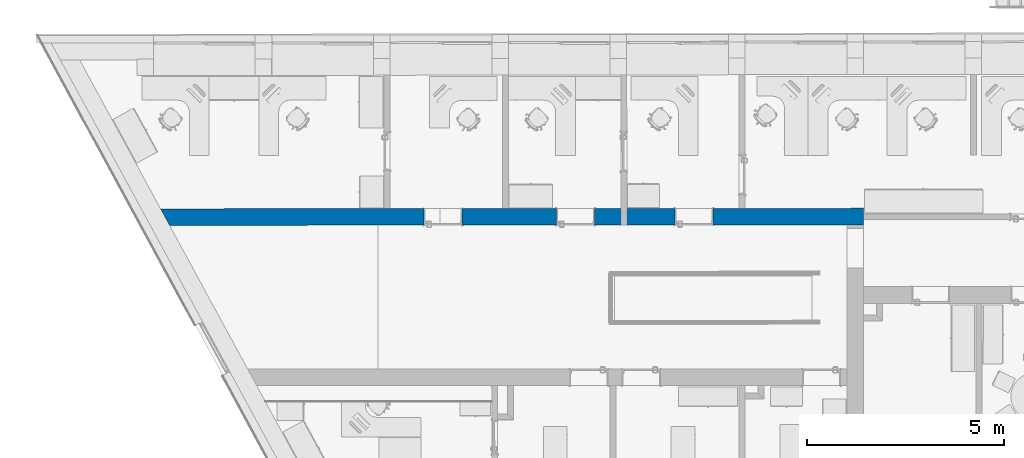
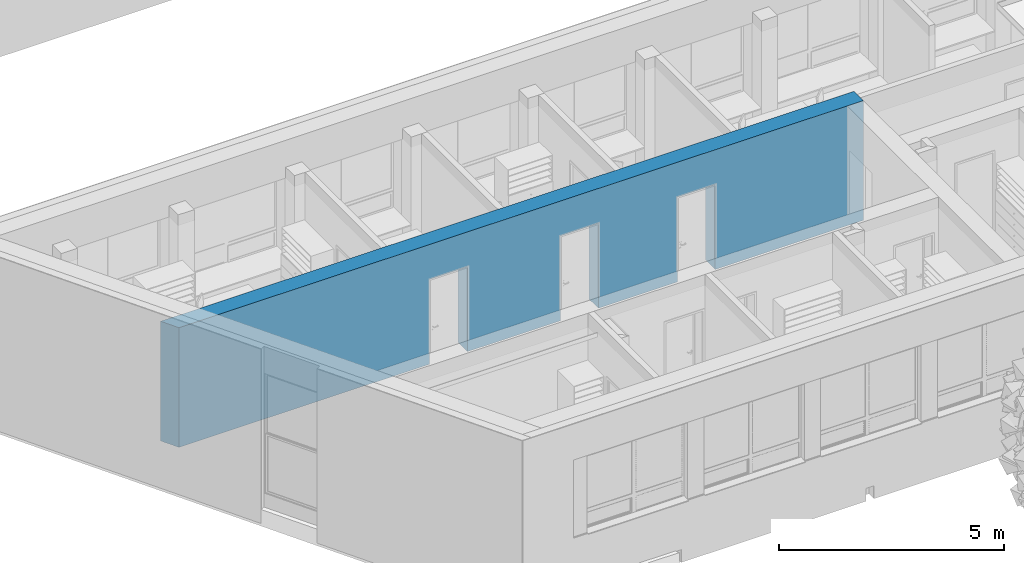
# One storey, part 7 of 194: 1 wall, 3 openings.
"""IFC2X3 building model written with IfcOpenShell, lengths in millimetres."""

import ifcopenshell
import ifcopenshell.guid

model = None  # the IFC model being written
_history = None  # IfcOwnerHistory: only IFC2X3 demands one
_inside = {}  # id of a spatial element -> (the spatial element, [elements in it])
_under = {}  # id of a project, library or spatial element -> (it, [spatial elements below it])
_declared = {}  # id of a project -> (the project, [libraries it declares])
_typed = {}  # id of a type object -> (the type object, [elements of that type])
_made_of = {}  # id of a material, layer set ... -> (it, [elements and type objects made of it])


def new_model(schema):
    """Start an empty IFC model of exactly this schema.

    Asked for "IFC4X3", IfcOpenShell would pick the latest addendum, in which some entities
    have other attributes; the version numbers below select the first issue.
    IFC2X3 requires an IfcOwnerHistory on every rooted entity: one is made here for all.
    """
    global model, _history
    if schema == "IFC4X3":
        model = ifcopenshell.file(schema_version=(4, 3, 0, 0))
    else:
        model = ifcopenshell.file(schema=schema)
    _inside.clear()
    _under.clear()
    _declared.clear()
    _typed.clear()
    _made_of.clear()
    _history = None
    if model.schema == "IFC2X3":
        org = make("IfcOrganization", Name="unknown")
        user = make(
            "IfcPersonAndOrganization",
            ThePerson=make("IfcPerson", FamilyName="unknown"),
            TheOrganization=org,
        )
        app = make(
            "IfcApplication",
            ApplicationDeveloper=org,
            Version="unknown",
            ApplicationFullName="unknown",
            ApplicationIdentifier="unknown",
        )
        _history = make(
            "IfcOwnerHistory",
            OwningUser=user,
            OwningApplication=app,
            ChangeAction="ADDED",
            CreationDate=0,
        )
    return model


def make(cls, **values):
    """One entity of the class cls with the attributes given. An attribute that is None is left unset."""
    return model.create_entity(
        cls, **{name: value for name, value in values.items() if value is not None}
    )


def entity(cls, *values):
    """Any entity or typed value of the class cls, its attributes in the order of the schema. None: left unset."""
    e = model.create_entity(cls)
    for i, value in enumerate(values):
        if value is not None:
            e[i] = value
    return e


def rooted(cls, **values):
    """An entity with a GlobalId (a new one), such as an element, a storey or a relation."""
    return make(cls, GlobalId=ifcopenshell.guid.new(), OwnerHistory=_history, **values)


def si_unit(unit_type, name, prefix=None):
    """IfcSIUnit, for example si_unit("LENGTHUNIT", "METRE", prefix="MILLI")."""
    return make("IfcSIUnit", UnitType=unit_type, Prefix=prefix, Name=name)


def converted_unit(unit_type, name, factor, base, dimensions=None, offset=None):
    """IfcConversionBasedUnit, such as the inch: factor (a typed value) times the base unit."""
    return make(
        "IfcConversionBasedUnit"
        if offset is None
        else "IfcConversionBasedUnitWithOffset",
        ConversionOffset=offset,
        Dimensions=None
        if dimensions is None
        else entity("IfcDimensionalExponents", *dimensions),
        UnitType=unit_type,
        Name=name,
        ConversionFactor=make(
            "IfcMeasureWithUnit", ValueComponent=factor, UnitComponent=base
        ),
    )


def derived_unit(unit_type, elements):
    """IfcDerivedUnit: a product of units, each with its exponent."""
    return make(
        "IfcDerivedUnit",
        Elements=[
            make("IfcDerivedUnitElement", Unit=unit, Exponent=power)
            for unit, power in elements
        ],
        UnitType=unit_type,
    )


def money_unit(currency):
    """IfcMonetaryUnit."""
    return make("IfcMonetaryUnit", Currency=currency)


def assignment(units):
    """IfcUnitAssignment: the units of a project."""
    return None if units is None else make("IfcUnitAssignment", Units=units)


def point(xyz):
    """IfcCartesianPoint."""
    return None if xyz is None else make("IfcCartesianPoint", Coordinates=xyz)


def direction(xyz):
    """IfcDirection."""
    return None if xyz is None else make("IfcDirection", DirectionRatios=xyz)


def frame(location, z_axis=None, x_axis=None):
    """IfcAxis2Placement3D, a coordinate frame: its origin and axes. An axis left out is left unset."""
    return make(
        "IfcAxis2Placement3D",
        Location=point(location),
        Axis=direction(z_axis),
        RefDirection=direction(x_axis),
    )


def frame_2d(location, x_axis=None):
    """IfcAxis2Placement2D, a coordinate frame in the plane: its origin and x axis."""
    return make(
        "IfcAxis2Placement2D", Location=point(location), RefDirection=direction(x_axis)
    )


def origin_with_axes():
    """The frame at (0, 0, 0) with the z axis (0, 0, 1) and the x axis (1, 0, 0) written out."""
    return frame((0.0, 0.0, 0.0), z_axis=(0.0, 0.0, 1.0), x_axis=(1.0, 0.0, 0.0))


def origin_2d_with_axis():
    """The frame at (0, 0) in the plane with the x axis (1, 0) written out."""
    return frame_2d((0.0, 0.0), x_axis=(1.0, 0.0))


def place(relative_to, where):
    """IfcLocalPlacement: puts the frame where relative to a parent placement (None: the world)."""
    return make(
        "IfcLocalPlacement", PlacementRelTo=relative_to, RelativePlacement=where
    )


def context(
    kind, dimensions, precision=None, world=None, true_north=None, identifier=None
):
    """IfcGeometricRepresentationContext, for example the 3D "Model" context."""
    return make(
        "IfcGeometricRepresentationContext",
        ContextIdentifier=identifier,
        ContextType=kind,
        CoordinateSpaceDimension=dimensions,
        Precision=precision,
        WorldCoordinateSystem=world,
        TrueNorth=true_north,
    )


def subcontext(parent, identifier, kind, view, scale=None):
    """IfcGeometricRepresentationSubContext, for example "Body" below "Model"."""
    return make(
        "IfcGeometricRepresentationSubContext",
        ContextIdentifier=identifier,
        ContextType=kind,
        ParentContext=parent,
        TargetScale=scale,
        TargetView=view,
    )


def project(units=None, contexts=None):
    """IfcProject with its units and contexts."""
    return rooted(
        "IfcProject",
        Name="project",
        RepresentationContexts=contexts,
        UnitsInContext=assignment(units),
    )


def spatial(cls, under=None, at=None, **own):
    """A site, building, storey or space (cls), placed at a placement, below another one or the project."""
    s = rooted(cls, ObjectPlacement=at, **own)
    if under is not None:
        _under.setdefault(under.id(), (under, []))[1].append(s)
    return s


def polyline(points):
    """IfcPolyline through the points."""
    return make("IfcPolyline", Points=[point(p) for p in points])


def profile(cls, at=None, kind="AREA", **sizes):
    """A parametric profile (cls). Its sizes go by their IFC names, for example OverallWidth=200.0."""
    return make(cls, ProfileType=kind, Position=at, **sizes)


def rectangle(**sizes):
    """IfcRectangleProfileDef."""
    return profile("IfcRectangleProfileDef", **sizes)


def outline(outer, holes=None, kind="AREA"):
    """IfcArbitraryClosedProfileDef: a profile drawn as a closed curve; with holes, ...WithVoids."""
    if holes is None:
        return make("IfcArbitraryClosedProfileDef", ProfileType=kind, OuterCurve=outer)
    return make(
        "IfcArbitraryProfileDefWithVoids",
        ProfileType=kind,
        OuterCurve=outer,
        InnerCurves=holes,
    )


def extrude(swept, where, along, depth):
    """IfcExtrudedAreaSolid: the profile swept, set in the frame where, extruded along a direction by depth."""
    return make(
        "IfcExtrudedAreaSolid",
        SweptArea=swept,
        Position=where,
        ExtrudedDirection=direction(along),
        Depth=depth,
    )


def shape(context_of_items, identifier, shape_type, items):
    """IfcShapeRepresentation: the items that make up one representation, for example the "Body"."""
    return make(
        "IfcShapeRepresentation",
        ContextOfItems=context_of_items,
        RepresentationIdentifier=identifier,
        RepresentationType=shape_type,
        Items=items,
    )


def material(Name=None, Category=None):
    """IfcMaterial."""
    return make("IfcMaterial", Name=Name, Category=Category)


def layer(
    of_material, thickness, ventilated=None, Name=None, Category=None, Priority=None
):
    """IfcMaterialLayer: one layer of a wall or slab, of a material (None: an air gap)."""
    return make(
        "IfcMaterialLayer",
        Material=of_material,
        LayerThickness=thickness,
        IsVentilated=ventilated,
        Name=Name,
        Category=Category,
        Priority=Priority,
    )


def layer_set(layers, Name=None):
    """IfcMaterialLayerSet."""
    return make("IfcMaterialLayerSet", MaterialLayers=layers, LayerSetName=Name)


def layer_usage(for_layer_set, set_direction, sense, offset, extent=None):
    """IfcMaterialLayerSetUsage: how a layer set lies in its element."""
    return make(
        "IfcMaterialLayerSetUsage",
        ForLayerSet=for_layer_set,
        LayerSetDirection=set_direction,
        DirectionSense=sense,
        OffsetFromReferenceLine=offset,
        ReferenceExtent=extent,
    )


def made_of(thing, what):
    """Note that an element or type object is made of a material, layer set ...; save() writes the relation."""
    if what is not None:
        _made_of.setdefault(what.id(), (what, []))[1].append(thing)
    return thing


def type_object(cls, material=None, **own):
    """A type object (cls), such as IfcWallType, which elements share."""
    return made_of(rooted(cls, **own), material)


def element(
    cls,
    number,
    at=None,
    inside=None,
    cuts=None,
    type_object=None,
    material=None,
    context=None,
    identifier="Body",
    shape_type=None,
    held_by="IfcProductDefinitionShape",
    body=None,
    shapes=None,
    **own,
):
    """One element of the class cls, such as IfcWall. Its Tag is "e" and its number.

    at: its placement. inside: the storey or other place that contains it. cuts: it is an
    opening in that element (IfcRelVoidsElement). A single representation is given by context,
    identifier, shape_type and body (its items); several are given by shapes. held_by: the class
    of the entity that holds the representations. save() writes the other relations.
    """
    e = rooted(cls, Tag="e%d" % number, ObjectPlacement=at, **own)
    if body is not None:
        shapes = [shape(context, identifier, shape_type, body)]
    if shapes is not None:
        e.Representation = make(held_by, Representations=shapes)
    if inside is not None:
        _inside.setdefault(inside.id(), (inside, []))[1].append(e)
    if cuts is not None:
        rooted(
            "IfcRelVoidsElement", RelatingBuildingElement=cuts, RelatedOpeningElement=e
        )
    if type_object is not None:
        _typed.setdefault(type_object.id(), (type_object, []))[1].append(e)
    return made_of(e, material)


def aggregate(whole, parts):
    """IfcRelAggregates: a whole, such as a stair, and the parts it consists of."""
    return rooted("IfcRelAggregates", RelatingObject=whole, RelatedObjects=parts)


def save(model, path):
    """Write the relations noted so far, then the file.

    IfcRelAggregates (storeys below a building ...), IfcRelContainedInSpatialStructure (elements
    in a storey), IfcRelDefinesByType, IfcRelAssociatesMaterial and IfcRelDeclares: one each for
    every whole, place, type object, material and project.
    """
    for whole, parts in _under.values():
        aggregate(whole, parts)
    for where, things in _inside.values():
        rooted(
            "IfcRelContainedInSpatialStructure",
            RelatedElements=things,
            RelatingStructure=where,
        )
    for kind, things in _typed.values():
        rooted("IfcRelDefinesByType", RelatedObjects=things, RelatingType=kind)
    for what, things in _made_of.values():
        rooted("IfcRelAssociatesMaterial", RelatedObjects=things, RelatingMaterial=what)
    for by, libraries in _declared.values():
        rooted("IfcRelDeclares", RelatingContext=by, RelatedDefinitions=libraries)
    model.write(path)


model = new_model("IFC2X3")

# Units and contexts
model_context = context("Model", 3, precision=1e-05, world=origin_with_axes(), true_north=direction((0.0, 1.0)))
body_context = subcontext(model_context, "Body", "Model", "MODEL_VIEW")
ifc_project = project(units=[si_unit("LENGTHUNIT", "METRE", prefix="MILLI"), si_unit("AREAUNIT", "SQUARE_METRE"), si_unit("VOLUMEUNIT", "CUBIC_METRE"), converted_unit("PLANEANGLEUNIT", "DEGREE", entity("IfcPlaneAngleMeasure", 0.0174532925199), si_unit("PLANEANGLEUNIT", "RADIAN"), dimensions=[0, 0, 0, 0, 0, 0, 0]), si_unit("SOLIDANGLEUNIT", "STERADIAN"), money_unit("EUR"), converted_unit("TIMEUNIT", "Year", entity("IfcTimeMeasure", 31556926.0), si_unit("TIMEUNIT", "SECOND"), dimensions=[0, 0, 1, 0, 0, 0, 0]), si_unit("MASSUNIT", "GRAM", prefix="KILO"), si_unit("THERMODYNAMICTEMPERATUREUNIT", "DEGREE_CELSIUS"), si_unit("LUMINOUSINTENSITYUNIT", "LUMEN"), si_unit("ENERGYUNIT", "JOULE", prefix="MEGA"), derived_unit("THERMALCONDUCTANCEUNIT", [(si_unit("POWERUNIT", "WATT"), 1), (si_unit("LENGTHUNIT", "METRE"), -1), (si_unit("THERMODYNAMICTEMPERATUREUNIT", "KELVIN"), -1)]), derived_unit("SPECIFICHEATCAPACITYUNIT", [(si_unit("ENERGYUNIT", "JOULE"), 1), (si_unit("MASSUNIT", "GRAM", prefix="KILO"), -1), (si_unit("THERMODYNAMICTEMPERATUREUNIT", "KELVIN"), -1)]), derived_unit("MASSDENSITYUNIT", [(si_unit("MASSUNIT", "GRAM", prefix="KILO"), 1), (si_unit("VOLUMEUNIT", "CUBIC_METRE"), -1)])], contexts=[model_context])

# Site, building, storey
site_placement = place(None, origin_with_axes())
site = spatial("IfcSite", under=ifc_project, at=site_placement, Name="Site", CompositionType="ELEMENT")
building_placement = place(site_placement, origin_with_axes())
building = spatial("IfcBuilding", under=site, at=building_placement, Name="Building", CompositionType="ELEMENT")
storey_placement = place(building_placement, frame((0.0, 0.0, 3000.0), z_axis=(0.0, 0.0, 1.0), x_axis=(1.0, 0.0, 0.0)))
storey = spatial("IfcBuildingStorey", under=building, at=storey_placement, Name="2 KORRUS", CompositionType="ELEMENT", Elevation=3000.0)

# Wall, openings
ifc_material = material(Name="Kivi -Ol.Olev Konstruktsioon")
ifc_layer = layer(ifc_material, 420.0, ventilated="UNKNOWN")
ifc_layer_set = layer_set([ifc_layer], Name="ol.olev ss 420")
ifc_layer_usage = layer_usage(ifc_layer_set, "AXIS2", "POSITIVE", 0.0)
wall_type = type_object("IfcWallType", Name="SW - 022", PredefinedType="NOTDEFINED")
wall_placement = place(storey_placement, frame((13075.3851744, 42656.1271484, 0.0), z_axis=(0.0, 0.0, 1.0), x_axis=(0.999999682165, 0.000797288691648, 0.0)))
wall = element("IfcWallStandardCase", 1, at=wall_placement, inside=storey, type_object=wall_type, material=ifc_layer_usage, Name="ol.olev ss 420", context=body_context, shape_type="SweptSolid", body=[
    extrude(outline(polyline([(489.207499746, 0.0), (18079.9890765, 0.0), (18079.9890765, 419.999999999), (261.343364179, 420.0), (489.207499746, 0.0)])), origin_with_axes(), (0.0, 0.0, 1.0), 3250.0),
])
opening_1_placement = place(wall_placement, frame((7420.29039907, 0.0, 0.0), z_axis=(0.0, 0.0, 1.0), x_axis=(1.0, 0.0, 0.0)))
element("IfcOpeningElement", 2, at=opening_1_placement, cuts=wall, Name="Siseuks * Door 22", context=body_context, shape_type="SweptSolid", body=[
    extrude(rectangle(XDim=970.0, YDim=2300.0, at=origin_2d_with_axis()), frame((-2.27373675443e-10, 420.0, 1150.0), z_axis=(0.0, 1.0, 0.0), x_axis=(1.0, 0.0, 0.0)), (0.0, 0.0, -1.0), 1260.0),
    extrude(rectangle(XDim=1044.0, YDim=2337.0, at=origin_2d_with_axis()), frame((0.0, 420.0, 1168.5), z_axis=(0.0, 1.0, 0.0), x_axis=(1.0, 0.0, 0.0)), (0.0, 0.0, 1.0), 420.0),
    extrude(rectangle(XDim=1044.0, YDim=2337.0, at=origin_2d_with_axis()), frame((0.0, 0.0, 1168.5), z_axis=(0.0, -1.0, 0.0), x_axis=(1.0, 0.0, 0.0)), (0.0, 0.0, 1.0), 420.0),
])
opening_2_placement = place(wall_placement, frame((10781.9246863, 0.0, 0.0), z_axis=(0.0, 0.0, 1.0), x_axis=(1.0, 0.0, 0.0)))
element("IfcOpeningElement", 3, at=opening_2_placement, cuts=wall, Name="Siseuks * Door 22", context=body_context, shape_type="SweptSolid", body=[
    extrude(rectangle(XDim=970.0, YDim=2300.0, at=origin_2d_with_axis()), frame((-2.27373675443e-10, 420.0, 1150.0), z_axis=(0.0, 1.0, 0.0), x_axis=(1.0, 0.0, 0.0)), (0.0, 0.0, -1.0), 1260.0),
    extrude(rectangle(XDim=1044.0, YDim=2337.0, at=origin_2d_with_axis()), frame((1.13686837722e-10, 420.000000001, 1168.5), z_axis=(0.0, 1.0, 0.0), x_axis=(1.0, 0.0, 0.0)), (0.0, 0.0, 1.0), 420.0),
    extrude(rectangle(XDim=1044.0, YDim=2337.0, at=origin_2d_with_axis()), frame((0.0, 0.0, 1168.5), z_axis=(0.0, -1.0, 0.0), x_axis=(1.0, 0.0, 0.0)), (0.0, 0.0, 1.0), 420.0),
])
opening_3_placement = place(wall_placement, frame((13784.3196134, 0.0, 0.0), z_axis=(0.0, 0.0, 1.0), x_axis=(1.0, 0.0, 0.0)))
element("IfcOpeningElement", 4, at=opening_3_placement, cuts=wall, Name="Siseuks * Door 22", context=body_context, shape_type="SweptSolid", body=[
    extrude(rectangle(XDim=970.0, YDim=2300.0, at=origin_2d_with_axis()), frame((-2.27373675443e-10, 419.999999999, 1150.0), z_axis=(0.0, 1.0, 0.0), x_axis=(1.0, 0.0, 0.0)), (0.0, 0.0, -1.0), 1260.0),
    extrude(rectangle(XDim=1044.0, YDim=2337.0, at=origin_2d_with_axis()), frame((1.13686837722e-10, 420.0, 1168.5), z_axis=(0.0, 1.0, 0.0), x_axis=(1.0, 0.0, 0.0)), (0.0, 0.0, 1.0), 420.0),
    extrude(rectangle(XDim=1044.0, YDim=2337.0, at=origin_2d_with_axis()), frame((0.0, 0.0, 1168.5), z_axis=(0.0, -1.0, 0.0), x_axis=(1.0, 0.0, 0.0)), (0.0, 0.0, 1.0), 420.0),
])

save(model, "model.ifc")
